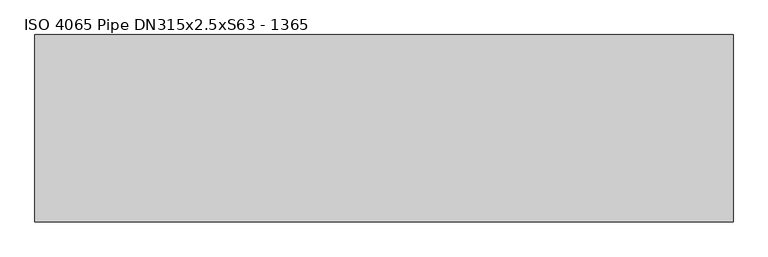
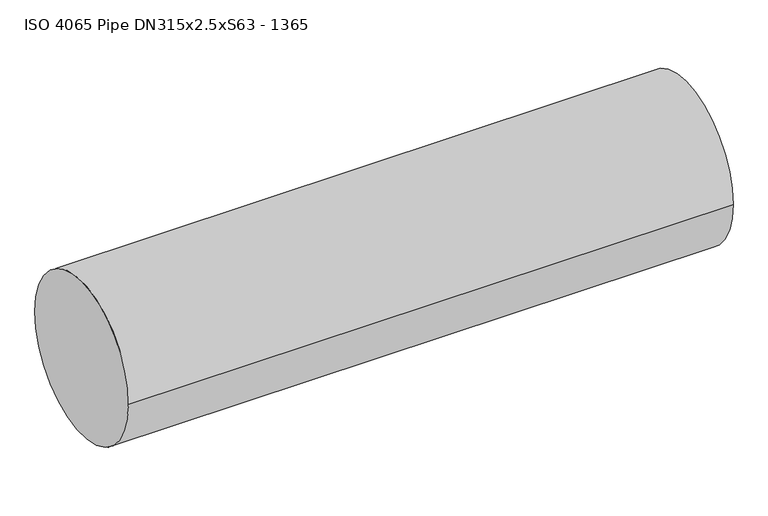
"""IFC4 building model written with IfcOpenShell, lengths in millimetres: proxy geometry, ISO 4065 Pipe DN315x2.5xS63 - 1365."""

from ifc_helpers import new_model, si_unit, point, frame, origin, origin_2d, place, context, project, spatial, circle_curve, trimmed, segment, composite_curve, outline, extrude, source, transform, mapped, element, save


def iso_4065_pipe_dn315x2_5xs63_1365_25acaa2f(model_context):
    return source(origin(), model_context, "Body", "SweptSolid", [
        extrude(outline(composite_curve([segment(trimmed(circle_curve(origin_2d(), 157.5), [point((157.5, 0.0))], [point((-157.5, 0.0))], False, "CARTESIAN"), True, "CONTINUOUS"), segment(trimmed(circle_curve(origin_2d(), 157.5), [point((-157.5, 0.0))], [point((157.5, 0.0))], False, "CARTESIAN"), True, "CONTINUOUS")], self_intersect=False)), frame((0.0, 0.0, 0.0), z_axis=(1.0, 0.0, 0.0), x_axis=(0.0, 1.0, 0.0)), (0.0, 0.0, 1.0), 1175.0),
    ])


if __name__ == "__main__":
    model = new_model("IFC4")
    model_context = context("Model", 3, world=origin())
    ifc_project = project(units=[si_unit("LENGTHUNIT", "METRE", prefix="MILLI")], contexts=[model_context])
    site = spatial("IfcSite", under=ifc_project)
    building = spatial("IfcBuilding", under=site)
    placement = place(None, origin())
    iso_4065_pipe_dn315x2_5xs63_1365_shape = iso_4065_pipe_dn315x2_5xs63_1365_25acaa2f(model_context)
    element("IfcBuildingElementProxy", 1, Name="ISO 4065 Pipe DN315x2.5xS63 - 1365", ObjectType="ISO 4065 Pipe DN315x2.5xS63 - 1365", at=placement, inside=building, context=model_context, shape_type="MappedRepresentation", body=[
        mapped(iso_4065_pipe_dn315x2_5xs63_1365_shape, transform((0.0, 0.0, 0.0), x_axis=(1.0, 0.0, 0.0), y_axis=(0.0, 1.0, 0.0), z_axis=(0.0, 0.0, 1.0))),
    ])
    save(model, "model.ifc")
